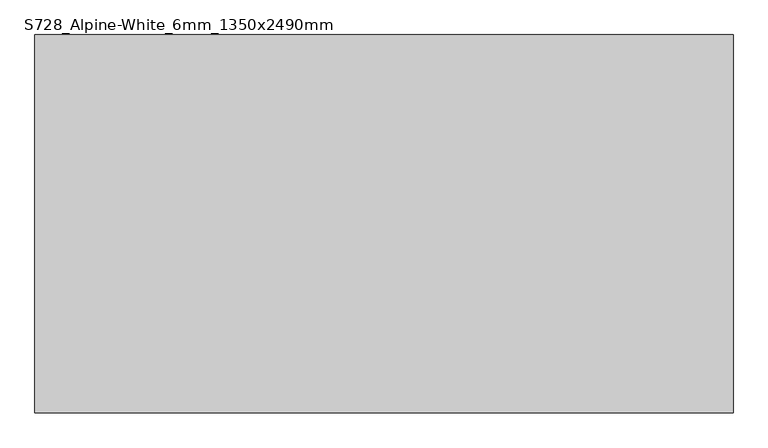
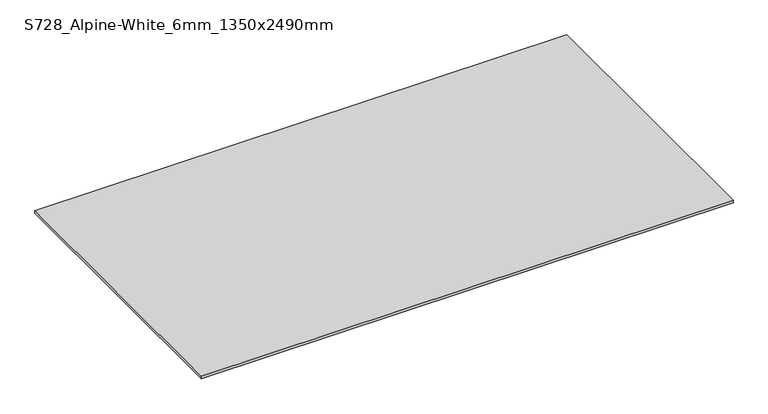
"""IFC4 building model written with IfcOpenShell, lengths in millimetres: proxy geometry, Kitchen_Counter-Tops_Indoor-Material_HI-MACS_Solids : S728_Alpine-White_6mm_1350x2490mm."""

import ifcopenshell
import ifcopenshell.guid

model = None  # the IFC model being written
_history = None  # IfcOwnerHistory: only IFC2X3 demands one
_inside = {}  # id of a spatial element -> (the spatial element, [elements in it])
_under = {}  # id of a project, library or spatial element -> (it, [spatial elements below it])
_declared = {}  # id of a project -> (the project, [libraries it declares])
_typed = {}  # id of a type object -> (the type object, [elements of that type])
_made_of = {}  # id of a material, layer set ... -> (it, [elements and type objects made of it])


def new_model(schema):
    """Start an empty IFC model of exactly this schema.

    Asked for "IFC4X3", IfcOpenShell would pick the latest addendum, in which some entities
    have other attributes; the version numbers below select the first issue.
    IFC2X3 requires an IfcOwnerHistory on every rooted entity: one is made here for all.
    """
    global model, _history
    if schema == "IFC4X3":
        model = ifcopenshell.file(schema_version=(4, 3, 0, 0))
    else:
        model = ifcopenshell.file(schema=schema)
    _inside.clear()
    _under.clear()
    _declared.clear()
    _typed.clear()
    _made_of.clear()
    _history = None
    if model.schema == "IFC2X3":
        org = make("IfcOrganization", Name="unknown")
        user = make(
            "IfcPersonAndOrganization",
            ThePerson=make("IfcPerson", FamilyName="unknown"),
            TheOrganization=org,
        )
        app = make(
            "IfcApplication",
            ApplicationDeveloper=org,
            Version="unknown",
            ApplicationFullName="unknown",
            ApplicationIdentifier="unknown",
        )
        _history = make(
            "IfcOwnerHistory",
            OwningUser=user,
            OwningApplication=app,
            ChangeAction="ADDED",
            CreationDate=0,
        )
    return model


def make(cls, **values):
    """One entity of the class cls with the attributes given. An attribute that is None is left unset."""
    return model.create_entity(
        cls, **{name: value for name, value in values.items() if value is not None}
    )


def rooted(cls, **values):
    """An entity with a GlobalId (a new one), such as an element, a storey or a relation."""
    return make(cls, GlobalId=ifcopenshell.guid.new(), OwnerHistory=_history, **values)


def si_unit(unit_type, name, prefix=None):
    """IfcSIUnit, for example si_unit("LENGTHUNIT", "METRE", prefix="MILLI")."""
    return make("IfcSIUnit", UnitType=unit_type, Prefix=prefix, Name=name)


def assignment(units):
    """IfcUnitAssignment: the units of a project."""
    return None if units is None else make("IfcUnitAssignment", Units=units)


def point(xyz):
    """IfcCartesianPoint."""
    return None if xyz is None else make("IfcCartesianPoint", Coordinates=xyz)


def direction(xyz):
    """IfcDirection."""
    return None if xyz is None else make("IfcDirection", DirectionRatios=xyz)


def frame(location, z_axis=None, x_axis=None):
    """IfcAxis2Placement3D, a coordinate frame: its origin and axes. An axis left out is left unset."""
    return make(
        "IfcAxis2Placement3D",
        Location=point(location),
        Axis=direction(z_axis),
        RefDirection=direction(x_axis),
    )


def origin():
    """The frame at (0, 0, 0) with its axes left unset."""
    return frame((0.0, 0.0, 0.0))


def origin_with_axes():
    """The frame at (0, 0, 0) with the z axis (0, 0, 1) and the x axis (1, 0, 0) written out."""
    return frame((0.0, 0.0, 0.0), z_axis=(0.0, 0.0, 1.0), x_axis=(1.0, 0.0, 0.0))


def place(relative_to, where):
    """IfcLocalPlacement: puts the frame where relative to a parent placement (None: the world)."""
    return make(
        "IfcLocalPlacement", PlacementRelTo=relative_to, RelativePlacement=where
    )


def context(
    kind, dimensions, precision=None, world=None, true_north=None, identifier=None
):
    """IfcGeometricRepresentationContext, for example the 3D "Model" context."""
    return make(
        "IfcGeometricRepresentationContext",
        ContextIdentifier=identifier,
        ContextType=kind,
        CoordinateSpaceDimension=dimensions,
        Precision=precision,
        WorldCoordinateSystem=world,
        TrueNorth=true_north,
    )


def project(units=None, contexts=None):
    """IfcProject with its units and contexts."""
    return rooted(
        "IfcProject",
        Name="project",
        RepresentationContexts=contexts,
        UnitsInContext=assignment(units),
    )


def spatial(cls, under=None, at=None, **own):
    """A site, building, storey or space (cls), placed at a placement, below another one or the project."""
    s = rooted(cls, ObjectPlacement=at, **own)
    if under is not None:
        _under.setdefault(under.id(), (under, []))[1].append(s)
    return s


def polyline(points):
    """IfcPolyline through the points."""
    return make("IfcPolyline", Points=[point(p) for p in points])


def outline(outer, holes=None, kind="AREA"):
    """IfcArbitraryClosedProfileDef: a profile drawn as a closed curve; with holes, ...WithVoids."""
    if holes is None:
        return make("IfcArbitraryClosedProfileDef", ProfileType=kind, OuterCurve=outer)
    return make(
        "IfcArbitraryProfileDefWithVoids",
        ProfileType=kind,
        OuterCurve=outer,
        InnerCurves=holes,
    )


def extrude(swept, where, along, depth):
    """IfcExtrudedAreaSolid: the profile swept, set in the frame where, extruded along a direction by depth."""
    return make(
        "IfcExtrudedAreaSolid",
        SweptArea=swept,
        Position=where,
        ExtrudedDirection=direction(along),
        Depth=depth,
    )


def shape(context_of_items, identifier, shape_type, items):
    """IfcShapeRepresentation: the items that make up one representation, for example the "Body"."""
    return make(
        "IfcShapeRepresentation",
        ContextOfItems=context_of_items,
        RepresentationIdentifier=identifier,
        RepresentationType=shape_type,
        Items=items,
    )


def source(mapping_origin, context_of_items, identifier, shape_type, items):
    """IfcRepresentationMap: a shape defined once, which mapped items show again and again."""
    return make(
        "IfcRepresentationMap",
        MappingOrigin=mapping_origin,
        MappedRepresentation=shape(context_of_items, identifier, shape_type, items),
    )


def transform(
    local_origin,
    x_axis=None,
    y_axis=None,
    z_axis=None,
    scale=None,
    scale2=None,
    scale3=None,
    uniform=True,
):
    """IfcCartesianTransformationOperator3D, or its non-uniform kind. x_axis, y_axis, z_axis: its Axis1, 2, 3."""
    if uniform:
        return make(
            "IfcCartesianTransformationOperator3D",
            Axis1=direction(x_axis),
            Axis2=direction(y_axis),
            LocalOrigin=point(local_origin),
            Scale=scale,
            Axis3=direction(z_axis),
        )
    return make(
        "IfcCartesianTransformationOperator3DnonUniform",
        Axis1=direction(x_axis),
        Axis2=direction(y_axis),
        LocalOrigin=point(local_origin),
        Scale=scale,
        Axis3=direction(z_axis),
        Scale2=scale2,
        Scale3=scale3,
    )


def mapped(mapping_source, mapping_target):
    """IfcMappedItem: shows the shape of a source again, moved by a transform."""
    return make(
        "IfcMappedItem", MappingSource=mapping_source, MappingTarget=mapping_target
    )


def made_of(thing, what):
    """Note that an element or type object is made of a material, layer set ...; save() writes the relation."""
    if what is not None:
        _made_of.setdefault(what.id(), (what, []))[1].append(thing)
    return thing


def element(
    cls,
    number,
    at=None,
    inside=None,
    cuts=None,
    type_object=None,
    material=None,
    context=None,
    identifier="Body",
    shape_type=None,
    held_by="IfcProductDefinitionShape",
    body=None,
    shapes=None,
    **own,
):
    """One element of the class cls, such as IfcWall. Its Tag is "e" and its number.

    at: its placement. inside: the storey or other place that contains it. cuts: it is an
    opening in that element (IfcRelVoidsElement). A single representation is given by context,
    identifier, shape_type and body (its items); several are given by shapes. held_by: the class
    of the entity that holds the representations. save() writes the other relations.
    """
    e = rooted(cls, Tag="e%d" % number, ObjectPlacement=at, **own)
    if body is not None:
        shapes = [shape(context, identifier, shape_type, body)]
    if shapes is not None:
        e.Representation = make(held_by, Representations=shapes)
    if inside is not None:
        _inside.setdefault(inside.id(), (inside, []))[1].append(e)
    if cuts is not None:
        rooted(
            "IfcRelVoidsElement", RelatingBuildingElement=cuts, RelatedOpeningElement=e
        )
    if type_object is not None:
        _typed.setdefault(type_object.id(), (type_object, []))[1].append(e)
    return made_of(e, material)


def aggregate(whole, parts):
    """IfcRelAggregates: a whole, such as a stair, and the parts it consists of."""
    return rooted("IfcRelAggregates", RelatingObject=whole, RelatedObjects=parts)


def save(model, path):
    """Write the relations noted so far, then the file.

    IfcRelAggregates (storeys below a building ...), IfcRelContainedInSpatialStructure (elements
    in a storey), IfcRelDefinesByType, IfcRelAssociatesMaterial and IfcRelDeclares: one each for
    every whole, place, type object, material and project.
    """
    for whole, parts in _under.values():
        aggregate(whole, parts)
    for where, things in _inside.values():
        rooted(
            "IfcRelContainedInSpatialStructure",
            RelatedElements=things,
            RelatingStructure=where,
        )
    for kind, things in _typed.values():
        rooted("IfcRelDefinesByType", RelatedObjects=things, RelatingType=kind)
    for what, things in _made_of.values():
        rooted("IfcRelAssociatesMaterial", RelatedObjects=things, RelatingMaterial=what)
    for by, libraries in _declared.values():
        rooted("IfcRelDeclares", RelatingContext=by, RelatedDefinitions=libraries)
    model.write(path)


def s728_alpine_white_6mm_1350x2490mm_099efddb(model_context):
    return source(origin(), model_context, "Body", "SweptSolid", [
        extrude(outline(polyline([(1245.0, 675.0), (1245.0, -675.0), (-1245.0, -675.0), (-1245.0, 675.0), (1245.0, 675.0)])), origin_with_axes(), (0.0, 0.0, 1.0), 12.0),
    ])


if __name__ == "__main__":
    model = new_model("IFC4")
    model_context = context("Model", 3, world=origin())
    ifc_project = project(units=[si_unit("LENGTHUNIT", "METRE", prefix="MILLI")], contexts=[model_context])
    site = spatial("IfcSite", under=ifc_project)
    building = spatial("IfcBuilding", under=site)
    placement = place(None, origin())
    s728_alpine_white_6mm_1350x2490mm_shape = s728_alpine_white_6mm_1350x2490mm_099efddb(model_context)
    element("IfcBuildingElementProxy", 1, Name="Kitchen_Counter-Tops_Indoor-Material_HI-MACS_Solids : S728_Alpine-White_6mm_1350x2490mm", ObjectType="Kitchen_Counter-Tops_Indoor-Material_HI-MACS_Solids : S728_Alpine-White_6mm_1350x2490mm", at=placement, inside=building, context=model_context, shape_type="MappedRepresentation", body=[
        mapped(s728_alpine_white_6mm_1350x2490mm_shape, transform((0.0, 0.0, 0.0), x_axis=(1.0, 0.0, 0.0), y_axis=(0.0, 1.0, 0.0), z_axis=(0.0, 0.0, 1.0))),
    ])
    save(model, "model.ifc")
